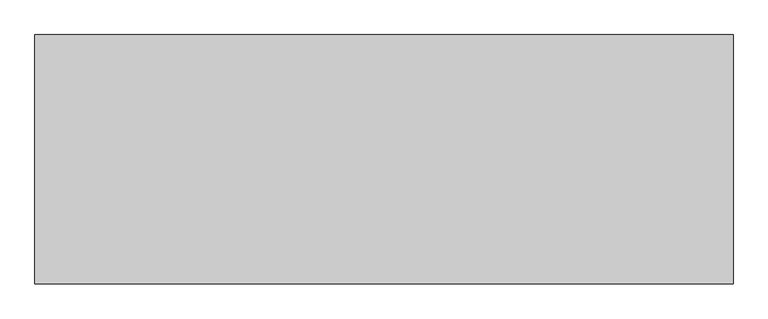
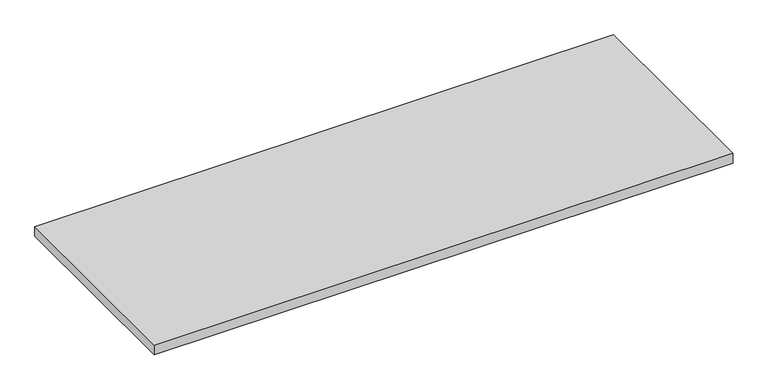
"""IFC4 building model written with IfcOpenShell, lengths in millimetres: furniture geometry, Steelcase - Universal Storage - Adjustable Steel Standard Shelf : 15D x 42W."""

from ifc_helpers import new_model, si_unit, frame, origin, place, context, project, spatial, polyline, outline, extrude, source, transform, mapped, element, save


def furniture_6fe2c7db(model_context):
    return source(origin(), model_context, "Body", "SweptSolid", [
        extrude(outline(polyline([(1066.8, 0.0), (1066.8, -381.0), (0.0, -381.0), (0.0, 0.0), (1066.8, 0.0)])), frame((0.0, 0.0, 285.75), z_axis=(0.0, 0.0, 1.0), x_axis=(1.0, 0.0, 0.0)), (0.0, 0.0, 1.0), 19.05),
    ])


if __name__ == "__main__":
    model = new_model("IFC4")
    model_context = context("Model", 3, world=origin())
    ifc_project = project(units=[si_unit("LENGTHUNIT", "METRE", prefix="MILLI")], contexts=[model_context])
    site = spatial("IfcSite", under=ifc_project)
    building = spatial("IfcBuilding", under=site)
    placement = place(None, origin())
    furniture_shape = furniture_6fe2c7db(model_context)
    element("IfcFurniture", 1, ObjectType="Steelcase - Universal Storage - Adjustable Steel Standard Shelf : 15D x 42W", at=placement, inside=building, context=model_context, shape_type="MappedRepresentation", body=[
        mapped(furniture_shape, transform((0.0, 0.0, 0.0), x_axis=(1.0, 0.0, 0.0), y_axis=(0.0, 1.0, 0.0), z_axis=(0.0, 0.0, 1.0))),
    ])
    save(model, "model.ifc")
